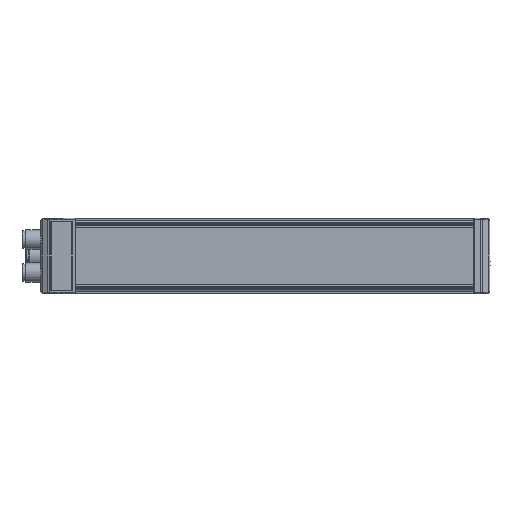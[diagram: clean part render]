
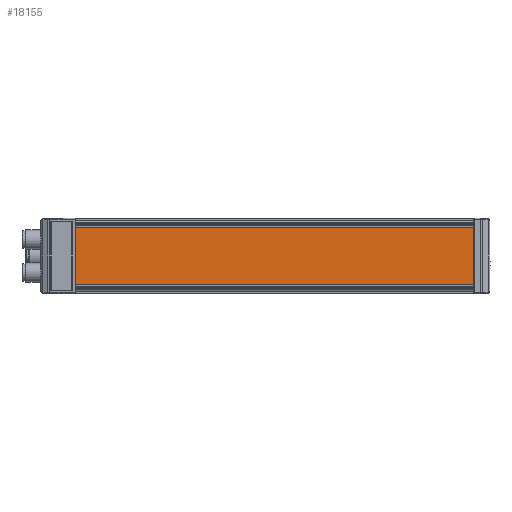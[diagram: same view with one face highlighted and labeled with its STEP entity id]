
A CAD part, front view. The second image highlights one B-rep face of the part: STEP entity #18155.
In plain terms, the highlighted planar face has unit normal (0, -1, 0).
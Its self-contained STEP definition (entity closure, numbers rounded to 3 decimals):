
#2498=FACE_OUTER_BOUND('',#3626,.T.);
#3626=EDGE_LOOP('',(#14352,#14353,#14354,#14355));
#4526=LINE('',#32159,#5924);
#4626=LINE('',#32584,#6024);
#4969=LINE('',#39184,#6367);
#4970=LINE('',#39186,#6368);
#5924=VECTOR('',#21757,36.);
#6024=VECTOR('',#22021,36.);
#6367=VECTOR('',#23648,251.);
#6368=VECTOR('',#23651,251.);
#7518=VERTEX_POINT('',#32156);
#7519=VERTEX_POINT('',#32158);
#7688=VERTEX_POINT('',#32581);
#7689=VERTEX_POINT('',#32583);
#9400=EDGE_CURVE('',#7518,#7519,#4526,.T.);
#9575=EDGE_CURVE('',#7689,#7688,#4626,.T.);
#10364=EDGE_CURVE('',#7518,#7689,#4969,.T.);
#10365=EDGE_CURVE('',#7519,#7688,#4970,.T.);
#14352=ORIENTED_EDGE('',*,*,#9575,.T.);
#14353=ORIENTED_EDGE('',*,*,#10365,.F.);
#14354=ORIENTED_EDGE('',*,*,#9400,.F.);
#14355=ORIENTED_EDGE('',*,*,#10364,.T.);
#16240=PLANE('',#19774);
#18155=ADVANCED_FACE('',(#2498),#16240,.T.);
#19774=AXIS2_PLACEMENT_3D('',#39185,#23649,#23650);
#21757=DIRECTION('',(0.,0.,1.));
#22021=DIRECTION('',(0.,0.,1.));
#23648=DIRECTION('',(1.,0.,0.));
#23649=DIRECTION('center_axis',(0.,-1.,0.));
#23650=DIRECTION('ref_axis',(0.,0.,1.));
#23651=DIRECTION('',(1.,0.,0.));
#32156=CARTESIAN_POINT('',(-0.5,-17.589,-18.));
#32158=CARTESIAN_POINT('',(-0.5,-17.589,18.));
#32159=CARTESIAN_POINT('',(-0.5,-17.589,-18.));
#32581=CARTESIAN_POINT('',(250.5,-17.589,18.));
#32583=CARTESIAN_POINT('',(250.5,-17.589,-18.));
#32584=CARTESIAN_POINT('',(250.5,-17.589,-18.));
#39184=CARTESIAN_POINT('',(-0.5,-17.589,-18.));
#39185=CARTESIAN_POINT('Origin',(649.5,-17.589,0.));
#39186=CARTESIAN_POINT('',(-0.5,-17.589,18.));
